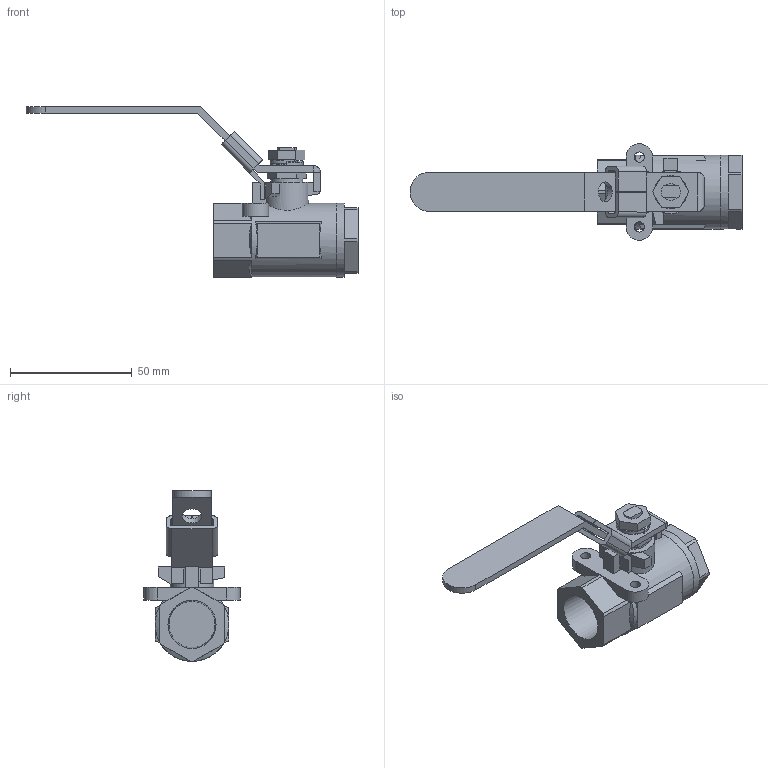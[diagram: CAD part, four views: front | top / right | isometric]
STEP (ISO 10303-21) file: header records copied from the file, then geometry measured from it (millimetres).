
FILE_DESCRIPTION((' '),'2;1');
FILE_NAME('N:\Technical Support\Private\Jomar Valve CAD\Ball Valves\CS and SS\2000N\.5 T-CS[SS]-2000N (100-953 [100-933])FusionCopy.stp.step','2016-07-05T12:07:43',(' '),(' '),' ','ACIS',' ');
FILE_SCHEMA(('CONFIG_CONTROL_DESIGN'));
Length unit declared in the file: inch
Products named in the file (9): N:\Technical Support\Private\Jomar Valve CAD\Ball Valves\CS and SS\2000N\.5 T-CS[SS]-2000N (100-953 [100-933])FusionCopy.stp.step; Body1; Body2; Body3; Body4; Body5; Body6; Body7; Body8
Assembly tree (8 placements, depth 2):
  N:\Technical Support\Private\Jomar Valve CAD\Ball Valves\CS and SS\2000N\.5 T-CS[SS]-2000N (100-953 [100-933])FusionCopy.stp.step
    Body1
    Body2
    Body3
    Body4
    Body5
    Body6
    Body7
    Body8
Bounding box: 136.32 x 39.62 x 70.06 mm (x, y, z)
Volume: 46184.2 mm3; surface area: 20157.9 mm2
Topology: 8 solids, 8 shells, 181 faces, 467 edges, 305 vertices
Faces by surface type: plane 116, cylinder 29, cone 17, bspline 15, torus 4
Full cylindrical faces by diameter (mm): 4.191 x2, 6.858 x1, 8.128 x1, 8.89 x1, 9.271 x1, 13.081 x1, 30.353 x2
Entity records: 6674 total; most frequent: CARTESIAN_POINT 1052, DIRECTION 918, ORIENTED_EDGE 888, EDGE_CURVE 444, VECTOR 308, LINE 308, AXIS2_PLACEMENT_3D 305, VERTEX_POINT 296
